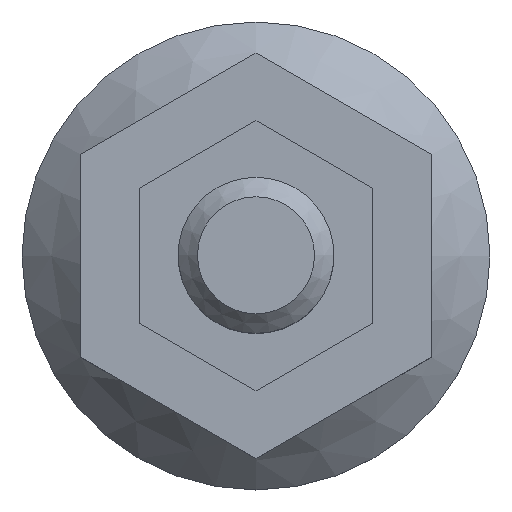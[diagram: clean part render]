
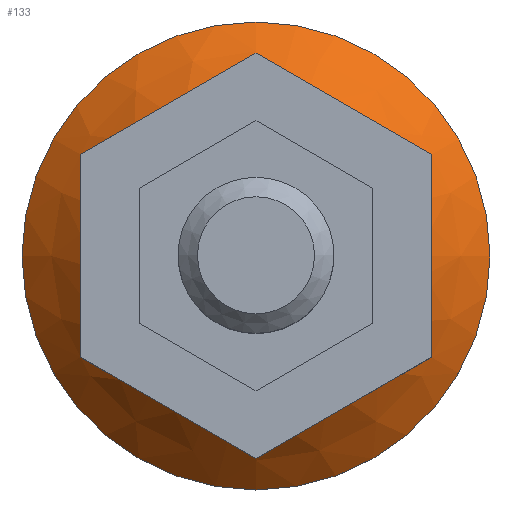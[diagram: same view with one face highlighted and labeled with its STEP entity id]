
A CAD part, top view. The second image highlights one B-rep face of the part: STEP entity #133.
In plain terms, the highlighted conical face has half-angle 45 degrees and reference radius 17.5 mm.
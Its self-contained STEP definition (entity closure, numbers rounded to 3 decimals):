
#27=CARTESIAN_POINT('',(24.,0.,2.));
#28=VERTEX_POINT('',#27);
#35=CARTESIAN_POINT('',(0.,0.,2.));
#36=DIRECTION('',(1.,0.,-0.));
#37=DIRECTION('',(0.,-0.,1.));
#38=AXIS2_PLACEMENT_3D('',#35,#37,#36);
#39=CIRCLE('',#38,24.);
#40=EDGE_CURVE('',#28,#28,#39,.T.);
#62=CARTESIAN_POINT('',(0.,0.,8.5));
#63=DIRECTION('',(1.,0.,0.));
#64=DIRECTION('',(0.,0.,-1.));
#65=AXIS2_PLACEMENT_3D('',#62,#64,#63);
#66=CONICAL_SURFACE('',#65,17.5,0.785);
#67=CARTESIAN_POINT('',(18.,0.,8.));
#68=VERTEX_POINT('',#67);
#69=CARTESIAN_POINT('',(24.,0.,2.));
#70=DIRECTION('',(-0.707,0.,0.707));
#71=VECTOR('',#70,8.485);
#72=LINE('',#69,#71);
#73=EDGE_CURVE('',#28,#68,#72,.T.);
#74=ORIENTED_EDGE('E2',*,*,#73,.T.);
#75=CARTESIAN_POINT('',(18.,10.392,5.215));
#76=VERTEX_POINT('',#75);
#77=CARTESIAN_POINT('',(18.,0.,8.));
#78=CARTESIAN_POINT('',(18.,4.823,8.));
#79=CARTESIAN_POINT('',(18.,10.392,5.215));
#80=(BOUNDED_CURVE()B_SPLINE_CURVE(2,(#77,#78,#79),.HYPERBOLIC_ARC.,.F.,.U.)B_SPLINE_CURVE_WITH_KNOTS((3,3),(0.,1.),.UNSPECIFIED.)CURVE()GEOMETRIC_REPRESENTATION_ITEM()RATIONAL_B_SPLINE_CURVE((1.167,1.167,1.083))REPRESENTATION_ITEM(''));
#81=EDGE_CURVE('',#68,#76,#80,.T.);
#82=ORIENTED_EDGE('E23',*,*,#81,.T.);
#83=CARTESIAN_POINT('',(0.,20.785,5.215));
#84=VERTEX_POINT('',#83);
#85=CARTESIAN_POINT('',(18.,10.392,5.215));
#86=CARTESIAN_POINT('',(9.,15.588,10.412));
#87=CARTESIAN_POINT('',(0.,20.785,5.215));
#88=(BOUNDED_CURVE()B_SPLINE_CURVE(2,(#85,#86,#87),.HYPERBOLIC_ARC.,.F.,.U.)B_SPLINE_CURVE_WITH_KNOTS((3,3),(0.,1.),.UNSPECIFIED.)CURVE()GEOMETRIC_REPRESENTATION_ITEM()RATIONAL_B_SPLINE_CURVE((1.083,1.25,1.083))REPRESENTATION_ITEM(''));
#89=EDGE_CURVE('',#76,#84,#88,.T.);
#90=ORIENTED_EDGE('E21',*,*,#89,.T.);
#91=CARTESIAN_POINT('',(-18.,10.392,5.215));
#92=VERTEX_POINT('',#91);
#93=CARTESIAN_POINT('',(0.,20.785,5.215));
#94=CARTESIAN_POINT('',(-9.,15.588,10.412));
#95=CARTESIAN_POINT('',(-18.,10.392,5.215));
#96=(BOUNDED_CURVE()B_SPLINE_CURVE(2,(#93,#94,#95),.HYPERBOLIC_ARC.,.F.,.U.)B_SPLINE_CURVE_WITH_KNOTS((3,3),(0.,1.),.UNSPECIFIED.)CURVE()GEOMETRIC_REPRESENTATION_ITEM()RATIONAL_B_SPLINE_CURVE((1.083,1.25,1.083))REPRESENTATION_ITEM(''));
#97=EDGE_CURVE('',#84,#92,#96,.T.);
#98=ORIENTED_EDGE('E20',*,*,#97,.T.);
#99=CARTESIAN_POINT('',(-18.,-10.392,5.215));
#100=VERTEX_POINT('',#99);
#101=CARTESIAN_POINT('',(-18.,10.392,5.215));
#102=CARTESIAN_POINT('',(-18.,0.,10.412));
#103=CARTESIAN_POINT('',(-18.,-10.392,5.215));
#104=(BOUNDED_CURVE()B_SPLINE_CURVE(2,(#101,#102,#103),.HYPERBOLIC_ARC.,.F.,.U.)B_SPLINE_CURVE_WITH_KNOTS((3,3),(0.,1.),.UNSPECIFIED.)CURVE()GEOMETRIC_REPRESENTATION_ITEM()RATIONAL_B_SPLINE_CURVE((1.083,1.25,1.083))REPRESENTATION_ITEM(''));
#105=EDGE_CURVE('',#92,#100,#104,.T.);
#106=ORIENTED_EDGE('E19',*,*,#105,.T.);
#107=CARTESIAN_POINT('',(0.,-20.785,5.215));
#108=VERTEX_POINT('',#107);
#109=CARTESIAN_POINT('',(-18.,-10.392,5.215));
#110=CARTESIAN_POINT('',(-9.,-15.588,10.412));
#111=CARTESIAN_POINT('',(0.,-20.785,5.215));
#112=(BOUNDED_CURVE()B_SPLINE_CURVE(2,(#109,#110,#111),.HYPERBOLIC_ARC.,.F.,.U.)B_SPLINE_CURVE_WITH_KNOTS((3,3),(0.,1.),.UNSPECIFIED.)CURVE()GEOMETRIC_REPRESENTATION_ITEM()RATIONAL_B_SPLINE_CURVE((1.083,1.25,1.083))REPRESENTATION_ITEM(''));
#113=EDGE_CURVE('',#100,#108,#112,.T.);
#114=ORIENTED_EDGE('E18',*,*,#113,.T.);
#115=CARTESIAN_POINT('',(18.,-10.392,5.215));
#116=VERTEX_POINT('',#115);
#117=CARTESIAN_POINT('',(0.,-20.785,5.215));
#118=CARTESIAN_POINT('',(9.,-15.588,10.412));
#119=CARTESIAN_POINT('',(18.,-10.392,5.215));
#120=(BOUNDED_CURVE()B_SPLINE_CURVE(2,(#117,#118,#119),.HYPERBOLIC_ARC.,.F.,.U.)B_SPLINE_CURVE_WITH_KNOTS((3,3),(0.,1.),.UNSPECIFIED.)CURVE()GEOMETRIC_REPRESENTATION_ITEM()RATIONAL_B_SPLINE_CURVE((1.083,1.25,1.083))REPRESENTATION_ITEM(''));
#121=EDGE_CURVE('',#108,#116,#120,.T.);
#122=ORIENTED_EDGE('E24',*,*,#121,.T.);
#123=CARTESIAN_POINT('',(18.,-10.392,5.215));
#124=CARTESIAN_POINT('',(18.,-4.823,8.));
#125=CARTESIAN_POINT('',(18.,0.,8.));
#126=(BOUNDED_CURVE()B_SPLINE_CURVE(2,(#123,#124,#125),.HYPERBOLIC_ARC.,.F.,.U.)B_SPLINE_CURVE_WITH_KNOTS((3,3),(0.,1.),.UNSPECIFIED.)CURVE()GEOMETRIC_REPRESENTATION_ITEM()RATIONAL_B_SPLINE_CURVE((1.083,1.167,1.167))REPRESENTATION_ITEM(''));
#127=EDGE_CURVE('',#116,#68,#126,.T.);
#128=ORIENTED_EDGE('E22',*,*,#127,.T.);
#129=ORIENTED_EDGE('E22',*,*,#73,.F.);
#130=ORIENTED_EDGE('E22',*,*,#40,.F.);
#131=EDGE_LOOP('',(#74,#82,#90,#98,#106,#114,#122,#128,#129,#130));
#132=FACE_OUTER_BOUND('',#131,.F.);
#133=ADVANCED_FACE('F3',(#132),#66,.T.);
